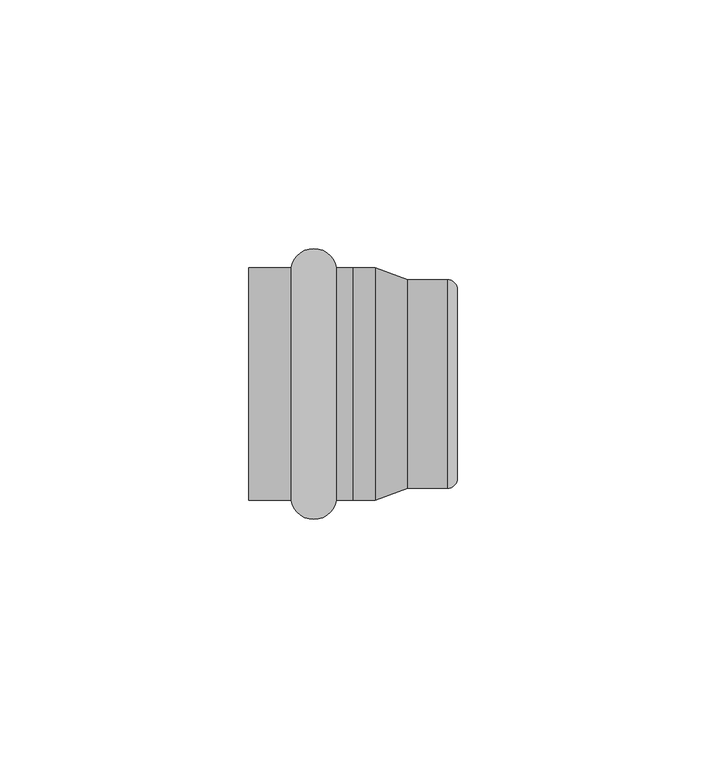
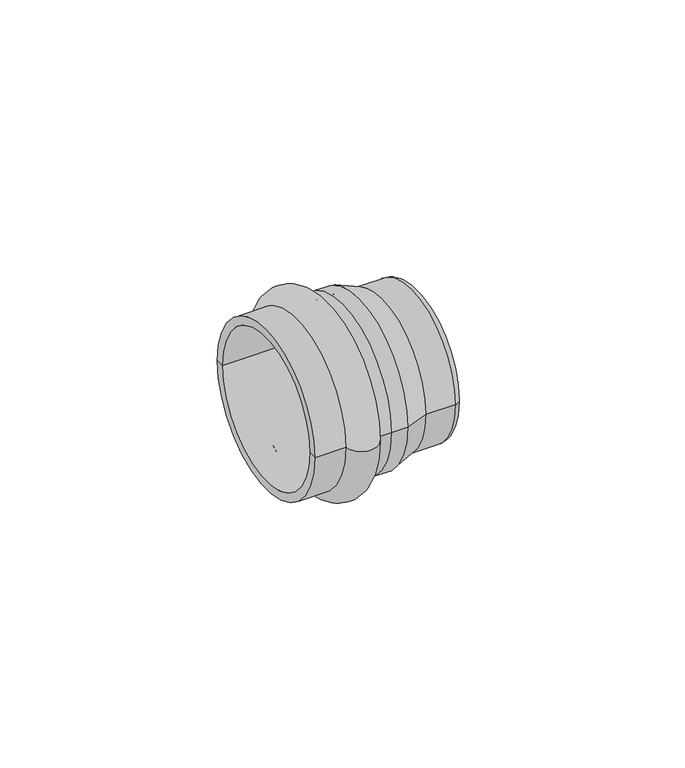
"""IFC4 building model written with IfcOpenShell, lengths in millimetres: pipe fitting geometry, VALTEC_VTi.961.I_Заглушка_нержавеющая : VTi.961.I."""

from ifc_helpers import new_model, si_unit, point, frame, origin, place, context, project, spatial, polyline, circle_curve, ellipse_curve, trimmed, source, transform, mapped, element, save
from ifc_brep_helpers import plane_surface, cylinder_surface, revolved_surface, advanced_brep


def pipe_fitting_ce8da559(model_context):
    return source(origin(), model_context, "Body", "AdvancedBrep", [
        advanced_brep(
        [(8.5535728, -23.35, 0.0), (8.5535728, 23.35, 0.0), (17.6464272, 23.35, 0.0), (17.6464272, -23.35, 0.0), (0.0, -23.35, 0.0), (0.0, 23.35, 0.0), (0.0, -21.0, 0.0), (0.0, 21.0, 0.0), (21.0, -21.0, 0.0), (21.0, 21.0, 0.0), (21.0, -23.35, 0.0), (21.0, 23.35, 0.0)],
        [
            (0, 1, circle_curve(frame((8.5535728, 0.0, 0.0), z_axis=(1.0, 0.0, 0.0), x_axis=(0.0, 1.0, 0.0)), 23.35)),
            (1, 2, circle_curve(frame((13.1, 22.65, 0.0), z_axis=(0.0, 0.0, -1.0), x_axis=(1.0, 0.0, 0.0)), 4.6)),
            (2, 3, circle_curve(frame((17.6464272, 0.0, 0.0), z_axis=(-1.0, 0.0, 0.0), x_axis=(0.0, 1.0, 0.0)), 23.35)),
            (3, 0, circle_curve(frame((13.1, -22.65, 0.0), z_axis=(0.0, 0.0, -1.0), x_axis=(1.0, 0.0, 0.0)), 4.6)),
            (1, 0, circle_curve(frame((8.5535728, 0.0, 0.0), z_axis=(1.0, 0.0, 0.0), x_axis=(0.0, 1.0, 0.0)), 23.35)),
            (3, 2, circle_curve(frame((17.6464272, 0.0, 0.0), z_axis=(-1.0, 0.0, 0.0), x_axis=(0.0, 1.0, 0.0)), 23.35)),
            (4, 5, circle_curve(frame((0.0, 0.0, 0.0), z_axis=(1.0, 0.0, 0.0), x_axis=(0.0, 1.0, 0.0)), 23.35)),
            (5, 1),
            (0, 4),
            (5, 4, circle_curve(frame((0.0, 0.0, 0.0), z_axis=(1.0, 0.0, 0.0), x_axis=(0.0, 1.0, 0.0)), 23.35)),
            (6, 7, circle_curve(frame((0.0, 0.0, 0.0), z_axis=(1.0, 0.0, 0.0), x_axis=(0.0, 1.0, 0.0)), 21.0)),
            (7, 5),
            (4, 6),
            (7, 6, circle_curve(frame((0.0, 0.0, 0.0), z_axis=(1.0, 0.0, 0.0), x_axis=(0.0, 1.0, 0.0)), 21.0)),
            (8, 9, circle_curve(frame((21.0, 0.0, 0.0), z_axis=(1.0, 0.0, 0.0), x_axis=(0.0, 1.0, 0.0)), 21.0)),
            (9, 7),
            (6, 8),
            (9, 8, circle_curve(frame((21.0, 0.0, 0.0), z_axis=(1.0, 0.0, 0.0), x_axis=(0.0, 1.0, 0.0)), 21.0)),
            (10, 11, circle_curve(frame((21.0, 0.0, 0.0), z_axis=(1.0, 0.0, 0.0), x_axis=(0.0, 1.0, 0.0)), 23.35)),
            (11, 9),
            (8, 10),
            (11, 10, circle_curve(frame((21.0, 0.0, 0.0), z_axis=(1.0, 0.0, 0.0), x_axis=(0.0, 1.0, 0.0)), 23.35)),
            (2, 11),
            (10, 3),
        ],
        [
            revolved_surface(trimmed(ellipse_curve(frame((13.1, 22.65, 0.0), z_axis=(0.0, 0.0, 1.0), x_axis=(1.0, 0.0, 0.0)), 4.6, 4.6), [point((17.6464272, 23.35, 0.0))], [point((8.5535728, 23.35, 0.0))], True, "CARTESIAN"), (-3.5364426, 0.0, 0.0), (-1.0, 0.0, 0.0)),
            cylinder_surface(frame((-3.5364426, 0.0, 0.0), z_axis=(-1.0, 0.0, 0.0), x_axis=(0.0, 1.0, 0.0)), 23.35),
            plane_surface(frame((0.0, 0.0, 0.0), z_axis=(-1.0, 0.0, 0.0), x_axis=(0.0, 1.0, 0.0))),
            revolved_surface(polyline([(0.0, 21.0, 0.0), (21.0, 21.0, 0.0)]), (-3.5364426, 0.0, 0.0), (-1.0, 0.0, 0.0)),
            plane_surface(frame((21.0, 0.0, 0.0), z_axis=(1.0, 0.0, 0.0), x_axis=(0.0, 1.0, 0.0))),
        ],
        [
            (0, [[1, 2, 3, 4]]),
            (0, [[5, -4, 6, -2]]),
            (1, [[7, 8, -1, 9]]),
            (1, [[10, -9, -5, -8]]),
            (2, [[11, 12, -7, 13]]),
            (2, [[14, -13, -10, -12]]),
            (3, [[15, 16, -11, 17]]),
            (3, [[18, -17, -14, -16]]),
            (4, [[19, 20, -15, 21]]),
            (4, [[22, -21, -18, -20]]),
            (1, [[-3, 23, -19, 24]]),
            (1, [[-6, -24, -22, -23]]),
        ],
    ),
        advanced_brep(
        [(21.0, -23.35, 0.0), (21.0, 23.35, 0.0), (25.5434281, 23.35, 0.0), (25.5434281, -23.35, 0.0), (25.5434281, -21.0, 0.0), (25.5434281, 21.0, 0.0), (21.0, 21.0, 0.0), (21.0, -21.0, 0.0), (39.65, -18.65, 0.0), (39.65, 18.65, 0.0), (32.0, 18.65, 0.0), (32.0, -18.65, 0.0), (39.65, 0.0, 0.0), (42.0, -19.0, 0.0), (42.0, 19.0, 0.0), (42.0, 0.0, 0.0), (32.0, -21.0, 0.0), (32.0, 21.0, 0.0), (40.0, 21.0, 0.0), (40.0, -21.0, 0.0)],
        [
            (0, 1, circle_curve(frame((21.0, 0.0, 0.0), z_axis=(1.0, 0.0, 0.0), x_axis=(0.0, 1.0, 0.0)), 23.35)),
            (1, 2),
            (2, 3, circle_curve(frame((25.5434281, 0.0, 0.0), z_axis=(-1.0, 0.0, 0.0), x_axis=(0.0, 1.0, 0.0)), 23.35)),
            (3, 0),
            (1, 0, circle_curve(frame((21.0, 0.0, 0.0), z_axis=(1.0, 0.0, 0.0), x_axis=(0.0, 1.0, 0.0)), 23.35)),
            (3, 2, circle_curve(frame((25.5434281, 0.0, 0.0), z_axis=(-1.0, 0.0, 0.0), x_axis=(0.0, 1.0, 0.0)), 23.35)),
            (4, 5, circle_curve(frame((25.5434281, 0.0, 0.0), z_axis=(1.0, 0.0, 0.0), x_axis=(0.0, 1.0, 0.0)), 21.0)),
            (5, 6),
            (6, 7, circle_curve(frame((21.0, 0.0, 0.0), z_axis=(-1.0, 0.0, 0.0), x_axis=(0.0, 1.0, 0.0)), 21.0)),
            (7, 4),
            (5, 4, circle_curve(frame((25.5434281, 0.0, 0.0), z_axis=(1.0, 0.0, 0.0), x_axis=(0.0, 1.0, 0.0)), 21.0)),
            (7, 6, circle_curve(frame((21.0, 0.0, 0.0), z_axis=(-1.0, 0.0, 0.0), x_axis=(0.0, 1.0, 0.0)), 21.0)),
            (6, 1),
            (0, 7),
            (8, 9, circle_curve(frame((39.65, 0.0, 0.0), z_axis=(1.0, 0.0, 0.0), x_axis=(0.0, 1.0, 0.0)), 18.65)),
            (9, 10),
            (10, 11, circle_curve(frame((32.0, 0.0, 0.0), z_axis=(-1.0, 0.0, 0.0), x_axis=(0.0, 1.0, 0.0)), 18.65)),
            (11, 8),
            (9, 8, circle_curve(frame((39.65, 0.0, 0.0), z_axis=(1.0, 0.0, 0.0), x_axis=(0.0, 1.0, 0.0)), 18.65)),
            (11, 10, circle_curve(frame((32.0, 0.0, 0.0), z_axis=(-1.0, 0.0, 0.0), x_axis=(0.0, 1.0, 0.0)), 18.65)),
            (12, 9),
            (8, 12),
            (13, 14, circle_curve(frame((42.0, 0.0, 0.0), z_axis=(1.0, 0.0, 0.0), x_axis=(0.0, 1.0, 0.0)), 19.0)),
            (14, 15),
            (15, 13),
            (14, 13, circle_curve(frame((42.0, 0.0, 0.0), z_axis=(1.0, 0.0, 0.0), x_axis=(0.0, 1.0, 0.0)), 19.0)),
            (16, 17, circle_curve(frame((32.0, 0.0, 0.0), z_axis=(1.0, 0.0, 0.0), x_axis=(0.0, 1.0, 0.0)), 21.0)),
            (17, 18),
            (18, 19, circle_curve(frame((40.0, 0.0, 0.0), z_axis=(-1.0, 0.0, 0.0), x_axis=(0.0, 1.0, 0.0)), 21.0)),
            (19, 16),
            (17, 16, circle_curve(frame((32.0, 0.0, 0.0), z_axis=(1.0, 0.0, 0.0), x_axis=(0.0, 1.0, 0.0)), 21.0)),
            (19, 18, circle_curve(frame((40.0, 0.0, 0.0), z_axis=(-1.0, 0.0, 0.0), x_axis=(0.0, 1.0, 0.0)), 21.0)),
            (2, 17),
            (16, 3),
            (10, 5),
            (4, 11),
            (18, 14, circle_curve(frame((40.0, 19.0, 0.0), z_axis=(0.0, 0.0, -1.0), x_axis=(1.0, 0.0, 0.0)), 2.0)),
            (13, 19, circle_curve(frame((40.0, -19.0, 0.0), z_axis=(0.0, 0.0, -1.0), x_axis=(1.0, 0.0, 0.0)), 2.0)),
        ],
        [
            cylinder_surface(frame((-40.0167378, 0.0, 0.0), z_axis=(-1.0, 0.0, 0.0), x_axis=(0.0, 1.0, 0.0)), 23.35),
            revolved_surface(polyline([(21.0, 21.0, 0.0), (25.5434281, 21.0, 0.0)]), (-40.0167378, 0.0, 0.0), (-1.0, 0.0, 0.0)),
            plane_surface(frame((21.0, 0.0, 0.0), z_axis=(-1.0, 0.0, 0.0), x_axis=(0.0, 1.0, 0.0))),
            revolved_surface(polyline([(32.0, 18.65, 0.0), (39.64999999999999, 18.65, 0.0)]), (-40.0167378, 0.0, 0.0), (-1.0, 0.0, 0.0)),
            plane_surface(frame((39.65, 0.0, 0.0), z_axis=(-1.0, 0.0, 0.0), x_axis=(0.0, 1.0, 0.0))),
            plane_surface(frame((42.0, 0.0, 0.0), z_axis=(1.0, 0.0, 0.0), x_axis=(0.0, 1.0, 0.0))),
            cylinder_surface(frame((-40.0167378, 0.0, 0.0), z_axis=(-1.0, 0.0, 0.0), x_axis=(0.0, 1.0, 0.0)), 21.0),
            revolved_surface(polyline([(32.0, 21.0, 0.0), (25.5434281, 23.35, 0.0)]), (-40.0167378, 0.0, 0.0), (-1.0, 0.0, 0.0)),
            revolved_surface(polyline([(25.5434281, 21.0, 0.0), (32.0, 18.65, 0.0)]), (-40.0167378, 0.0, 0.0), (-1.0, 0.0, 0.0)),
            revolved_surface(trimmed(ellipse_curve(frame((40.0, 19.0, 0.0), z_axis=(0.0, 0.0, 1.0), x_axis=(1.0, 0.0, 0.0)), 2.0, 2.0), [point((42.0, 19.0, 0.0))], [point((40.0, 21.0, 0.0))], True, "CARTESIAN"), (-40.0167378, 0.0, 0.0), (-1.0, 0.0, 0.0)),
        ],
        [
            (0, [[1, 2, 3, 4]]),
            (0, [[5, -4, 6, -2]]),
            (1, [[7, 8, 9, 10]]),
            (1, [[11, -10, 12, -8]]),
            (2, [[-9, 13, -1, 14]]),
            (2, [[-12, -14, -5, -13]]),
            (3, [[15, 16, 17, 18]]),
            (3, [[19, -18, 20, -16]]),
            (4, [[21, -15, 22]]),
            (4, [[-22, -19, -21]]),
            (5, [[23, 24, 25]]),
            (5, [[26, -25, -24]]),
            (6, [[27, 28, 29, 30]]),
            (6, [[31, -30, 32, -28]]),
            (7, [[-3, 33, -27, 34]]),
            (7, [[-6, -34, -31, -33]]),
            (8, [[-17, 35, -7, 36]]),
            (8, [[-20, -36, -11, -35]]),
            (9, [[-29, 37, -23, 38]]),
            (9, [[-32, -38, -26, -37]]),
        ],
    ),
    ])


if __name__ == "__main__":
    model = new_model("IFC4")
    model_context = context("Model", 3, world=origin())
    ifc_project = project(units=[si_unit("LENGTHUNIT", "METRE", prefix="MILLI")], contexts=[model_context])
    site = spatial("IfcSite", under=ifc_project)
    building = spatial("IfcBuilding", under=site)
    placement = place(None, origin())
    pipe_fitting_shape = pipe_fitting_ce8da559(model_context)
    element("IfcPipeFitting", 1, ObjectType="VALTEC_VTi.961.I_Заглушка_нержавеющая : VTi.961.I", at=placement, inside=building, context=model_context, shape_type="MappedRepresentation", body=[
        mapped(pipe_fitting_shape, transform((0.0, 0.0, 0.0), x_axis=(1.0, 0.0, 0.0), y_axis=(0.0, 1.0, 0.0), z_axis=(0.0, 0.0, 1.0))),
    ])
    save(model, "model.ifc")
